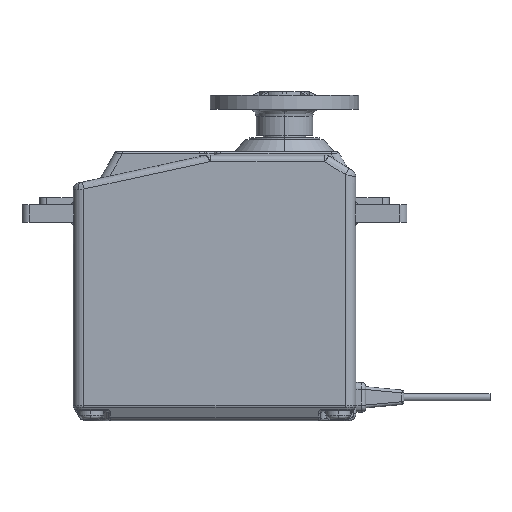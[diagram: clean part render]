
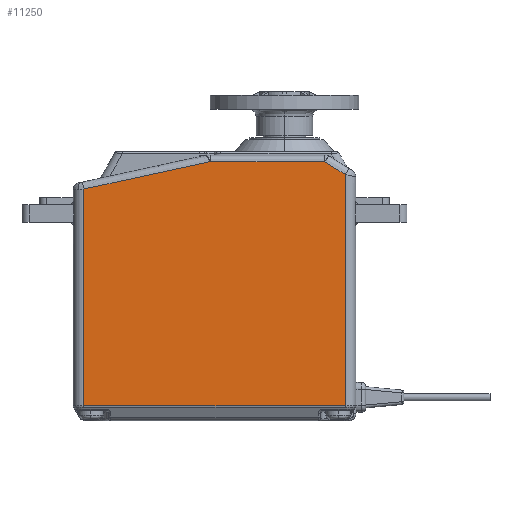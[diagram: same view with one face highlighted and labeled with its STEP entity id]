
A CAD part, left-side view. The second image highlights one B-rep face of the part: STEP entity #11250.
In plain terms, the highlighted planar face has unit normal (-1, 0, 0) as drawn and (1, 0, 0) by its records, which use the part's own axes.
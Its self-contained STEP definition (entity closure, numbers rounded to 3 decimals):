
#271 = VERTEX_POINT ( 'NONE', #2416 ) ;
#708 = CARTESIAN_POINT ( 'NONE',  ( 14.999, -18.166, 46.334 ) ) ;
#1443 = CARTESIAN_POINT ( 'NONE',  ( 14.999, 20.334, 46.334 ) ) ;
#1801 = CARTESIAN_POINT ( 'NONE',  ( 14.999, 18.834, 71.9 ) ) ;
#2164 = FACE_OUTER_BOUND ( 'NONE', #6836, .T. ) ;
#2416 = CARTESIAN_POINT ( 'NONE',  ( 14.999, -18.166, 77.002 ) ) ;
#2629 = CARTESIAN_POINT ( 'NONE',  ( 14.999, 20.334, 69.2 ) ) ;
#2739 = DIRECTION ( 'NONE',  ( 0., 0.848, -0.53 ) ) ;
#2740 = VECTOR ( 'NONE', #16733, 1000. ) ;
#2811 = CARTESIAN_POINT ( 'NONE',  ( 14.999, 15.887, 80.9 ) ) ;
#3273 = VECTOR ( 'NONE', #20719, 1000. ) ;
#3663 = LINE ( 'NONE', #1801, #3273 ) ;
#3680 = LINE ( 'NONE', #1443, #7870 ) ;
#3906 = LINE ( 'NONE', #15473, #12188 ) ;
#4528 = VECTOR ( 'NONE', #21233, 1000. ) ;
#6836 = EDGE_LOOP ( 'NONE', ( #22120, #7902, #11757, #19865, #14362, #11817 ) ) ;
#7744 = CARTESIAN_POINT ( 'NONE',  ( 14.999, -6.735, 79.482 ) ) ;
#7870 = VECTOR ( 'NONE', #8998, 1000. ) ;
#7902 = ORIENTED_EDGE ( 'NONE', *, *, #8947, .F. ) ;
#8333 = VERTEX_POINT ( 'NONE', #14401 ) ;
#8809 = EDGE_CURVE ( 'NONE', #9469, #18556, #3680, .T. ) ;
#8947 = EDGE_CURVE ( 'NONE', #18556, #271, #3906, .T. ) ;
#8998 = DIRECTION ( 'NONE',  ( 0., -1., 0. ) ) ;
#9469 = VERTEX_POINT ( 'NONE', #15747 ) ;
#10330 = DIRECTION ( 'NONE',  ( 0., 0., 1. ) ) ;
#11030 = VECTOR ( 'NONE', #2739, 1000. ) ;
#11227 = EDGE_CURVE ( 'NONE', #12086, #271, #24364, .T. ) ;
#11250 = ADVANCED_FACE ( 'NONE', ( #2164 ), #22665, .F. ) ;
#11424 = AXIS2_PLACEMENT_3D ( 'NONE', #2629, #21437, #10330 ) ;
#11685 = EDGE_CURVE ( 'NONE', #18725, #8333, #16171, .T. ) ;
#11757 = ORIENTED_EDGE ( 'NONE', *, *, #8809, .F. ) ;
#11817 = ORIENTED_EDGE ( 'NONE', *, *, #16778, .T. ) ;
#12086 = VERTEX_POINT ( 'NONE', #12100 ) ;
#12100 = CARTESIAN_POINT ( 'NONE',  ( 14.999, -0.197, 80.901 ) ) ;
#12188 = VECTOR ( 'NONE', #21325, 1000. ) ;
#12210 = LINE ( 'NONE', #2811, #4528 ) ;
#14362 = ORIENTED_EDGE ( 'NONE', *, *, #11685, .F. ) ;
#14401 = CARTESIAN_POINT ( 'NONE',  ( 14.999, 18.834, 79.058 ) ) ;
#15473 = CARTESIAN_POINT ( 'NONE',  ( 14.999, -18.166, 69.2 ) ) ;
#15747 = CARTESIAN_POINT ( 'NONE',  ( 14.999, 18.834, 46.334 ) ) ;
#16171 = LINE ( 'NONE', #19659, #11030 ) ;
#16733 = DIRECTION ( 'NONE',  ( 0., -0.977, -0.212 ) ) ;
#16778 = EDGE_CURVE ( 'NONE', #18725, #12086, #12210, .T. ) ;
#18556 = VERTEX_POINT ( 'NONE', #708 ) ;
#18725 = VERTEX_POINT ( 'NONE', #21110 ) ;
#19470 = EDGE_CURVE ( 'NONE', #8333, #9469, #3663, .T. ) ;
#19659 = CARTESIAN_POINT ( 'NONE',  ( 14.999, 16.243, 80.678 ) ) ;
#19865 = ORIENTED_EDGE ( 'NONE', *, *, #19470, .F. ) ;
#20719 = DIRECTION ( 'NONE',  ( 0., 0., -1. ) ) ;
#21110 = CARTESIAN_POINT ( 'NONE',  ( 14.999, 15.887, 80.9 ) ) ;
#21233 = DIRECTION ( 'NONE',  ( 0., -1., 0. ) ) ;
#21325 = DIRECTION ( 'NONE',  ( 0., 0., 1. ) ) ;
#21437 = DIRECTION ( 'NONE',  ( -1., 0., 0. ) ) ;
#22120 = ORIENTED_EDGE ( 'NONE', *, *, #11227, .T. ) ;
#22665 = PLANE ( 'NONE',  #11424 ) ;
#24364 = LINE ( 'NONE', #7744, #2740 ) ;
